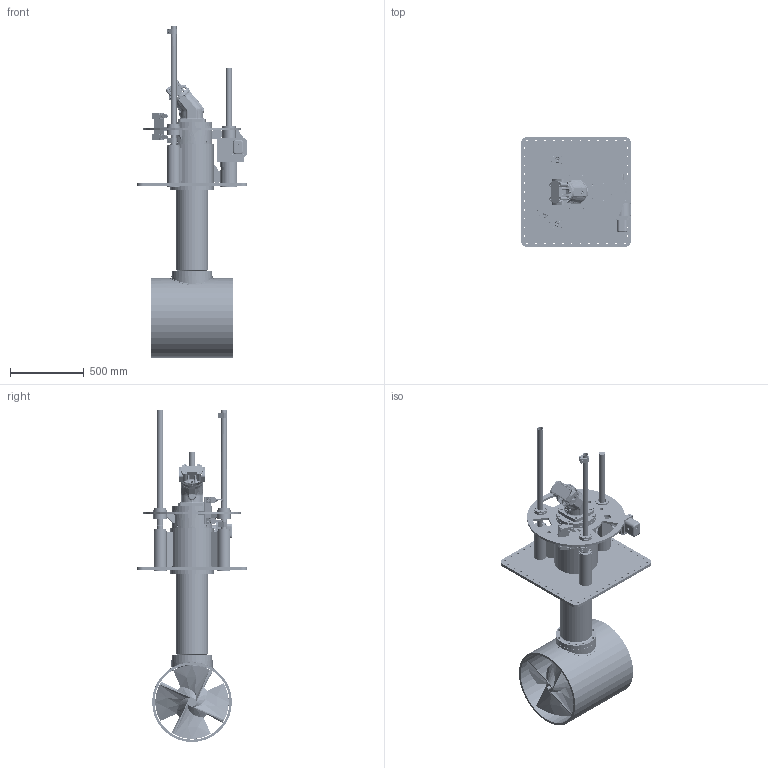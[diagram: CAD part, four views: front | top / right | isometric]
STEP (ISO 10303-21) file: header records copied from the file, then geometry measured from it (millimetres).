
FILE_DESCRIPTION(/* description */ (''),/* implementation_level */ '2;1');
FILE_NAME(/* name */ 'Q:\THRUSTERS\THRUSTER SALES & SUPPORT DOCS\THRUSTER Sales\H-V\H-0500-V\H-0500-V-DEPLOYED.stp',/* time_stamp */ '2020-03-05T15:53:36+00:00',/* author */ ('charlotte.richardson'),/* organization */ (''),/* preprocessor_version */ 'ST-DEVELOPER v17',/* originating_system */ 'Autodesk Inventor 2019',/* authorisation */ '');
FILE_SCHEMA (('AUTOMOTIVE_DESIGN { 1 0 10303 214 3 1 1 }'));
Length unit declared in the file: millimetre
Products named in the file (1): H-0500-V_Shrinkwrap_1
Bounding box: 745 x 745 x 2249.59 mm (x, y, z)
Volume: 78381298.2 mm3; surface area: 9271015.1 mm2
Topology: 6 solids, 6 shells, 2939 faces, 7559 edges, 4973 vertices
Faces by surface type: cylinder 1094, plane 974, bspline 425, cone 303, torus 113, sphere 30
Full cylindrical faces by diameter (mm): 3 x6, 4 x8, 5 x1, 5.134 x8, 5.2 x2, 5.5 x32, 6.2 x8, 6.5 x12, 6.8 x8, 7.2 x2, 8 x3, 8.3 x28, 8.5 x71, 9 x8, 9.5 x4, 10 x8, 10.3 x24, 10.5 x55, 11 x4, 11.8 x1, 12 x14, 12.5 x50, 13 x14, 14 x24, 14.287 x1, 14.5 x1, 15 x2, 15.25 x4, 16 x3, 16.5 x21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
Entity records: 132455 total; most frequent: CARTESIAN_POINT 57829, DIRECTION 14989, ORIENTED_EDGE 14866, EDGE_CURVE 7433, AXIS2_PLACEMENT_3D 6233, VERTEX_POINT 4971, EDGE_LOOP 3754, CIRCLE 3660
